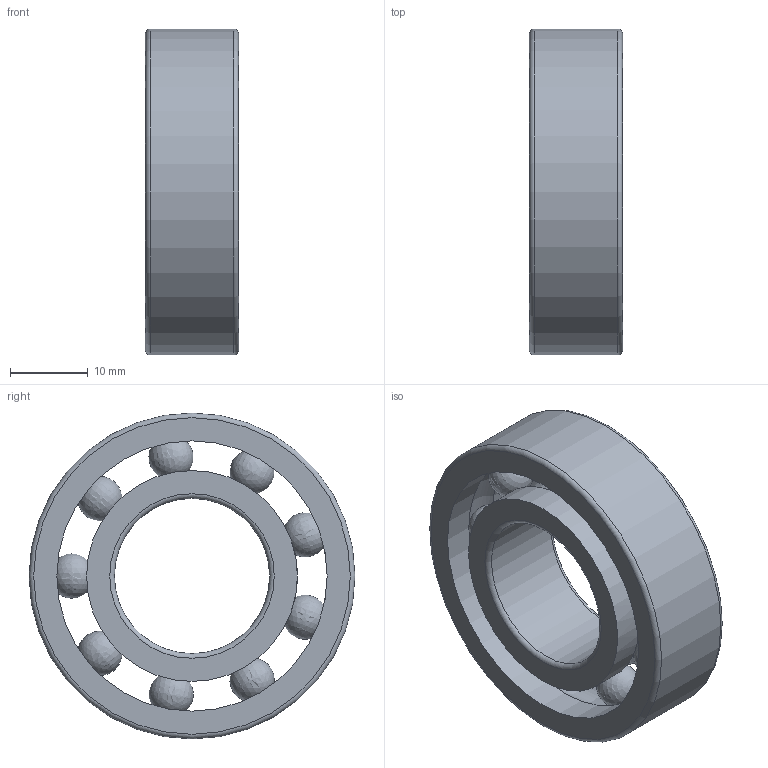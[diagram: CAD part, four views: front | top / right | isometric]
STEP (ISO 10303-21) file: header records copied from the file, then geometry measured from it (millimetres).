
FILE_DESCRIPTION(/* description */ ('깊은 그루브 볼 베어링'),/* implementation_level */ '2;1');
FILE_NAME(/* name */ '',/* time_stamp */ '2024-04-08T11:18:00+09:00',/* author */ ('jhkim'),/* organization */ (''),/* preprocessor_version */ 'ST-DEVELOPER v20',/* originating_system */ 'Autodesk Inventor 2025',/* authorisation */ '');
FILE_SCHEMA (('AUTOMOTIVE_DESIGN { 1 0 10303 214 3 1 1 }'));
Length unit declared in the file: millimetre
Products named in the file (1): 베어링 6004
Bounding box: 12 x 42 x 42 mm (x, y, z)
Volume: 8691.3 mm3; surface area: 7001.8 mm2
Topology: 11 solids, 11 shells, 41 faces, 111 edges, 74 vertices
Faces by surface type: torus 22, sphere 9, cylinder 6, plane 4
Full cylindrical faces by diameter (mm): 20 x1, 27.172 x2, 34.828 x2, 42 x1
Entity records: 1555 total; most frequent: DIRECTION 300, CARTESIAN_POINT 263, ORIENTED_EDGE 222, AXIS2_PLACEMENT_3D 147, EDGE_CURVE 111, VERTEX_POINT 110, CIRCLE 105, EDGE_LOOP 63
